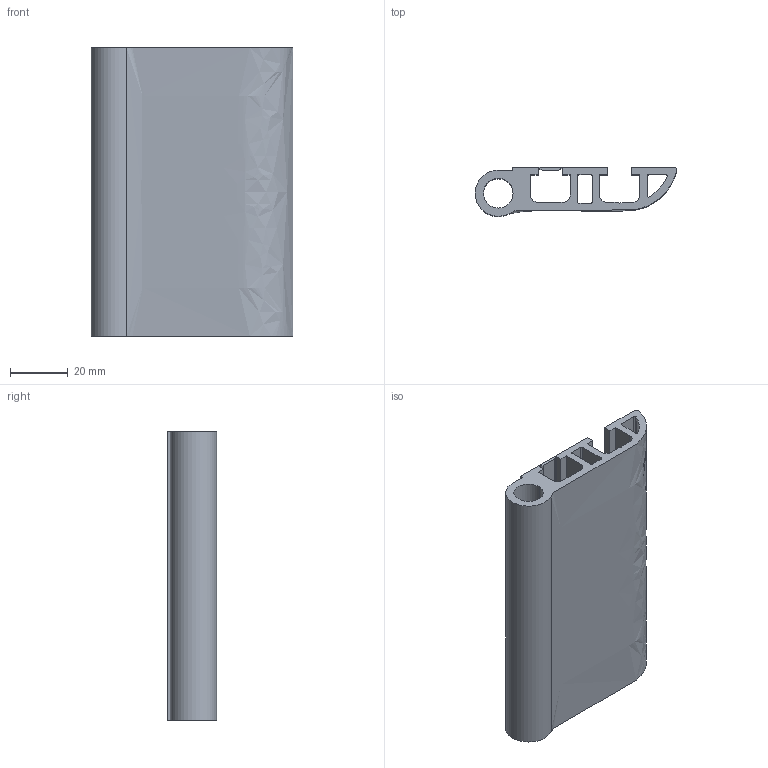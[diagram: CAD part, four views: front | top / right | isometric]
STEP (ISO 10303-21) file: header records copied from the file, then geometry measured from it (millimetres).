
FILE_DESCRIPTION (( 'STEP AP203' ), '1' );
FILE_NAME ('013.000.003A.STEP', '2020-12-23T12:55:07', ( '' ), ( '' ), 'SwSTEP 2.0', 'SolidWorks 2018', '' );
FILE_SCHEMA (( 'CONFIG_CONTROL_DESIGN' ));
Length unit declared in the file: millimetre
Products named in the file (1): 013.000.003A
Bounding box: 69.75 x 16.99 x 100 mm (x, y, z)
Volume: 50208.2 mm3; surface area: 33681.3 mm2
Topology: 1 solids, 1 shells, 53 faces, 153 edges, 102 vertices
Faces by surface type: plane 34, cylinder 18, bspline 1
Entity records: 1874 total; most frequent: CARTESIAN_POINT 354, ORIENTED_EDGE 306, DIRECTION 293, EDGE_CURVE 153, LINE 115, VECTOR 115, VERTEX_POINT 102, AXIS2_PLACEMENT_3D 89
